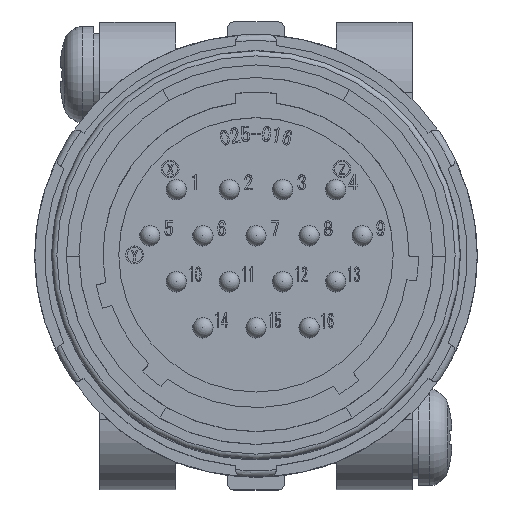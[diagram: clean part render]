
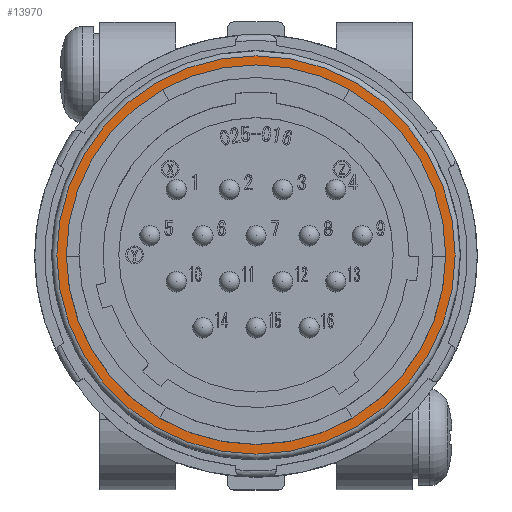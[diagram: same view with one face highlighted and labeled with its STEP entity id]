
A CAD part, top view. The second image highlights one B-rep face of the part: STEP entity #13970.
In plain terms, the highlighted planar face has unit normal (0, 0, 1).
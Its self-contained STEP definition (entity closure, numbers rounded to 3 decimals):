
#2315 = FACE_OUTER_BOUND ( 'NONE', #22910, .T. ) ;
#6933 = FACE_BOUND ( 'NONE', #57547, .T. ) ;
#8562 = AXIS2_PLACEMENT_3D ( 'NONE', #46406, #51218, #51427 ) ;
#12644 = ORIENTED_EDGE ( 'NONE', *, *, #45888, .T. ) ;
#13970 = ADVANCED_FACE ( 'NONE', ( #6933, #2315 ), #60161, .F. ) ;
#19432 = DIRECTION ( 'NONE',  ( -1., 0., 0. ) ) ;
#20312 = VERTEX_POINT ( 'NONE', #37257 ) ;
#22910 = EDGE_LOOP ( 'NONE', ( #39780 ) ) ;
#26569 = DIRECTION ( 'NONE',  ( -1., 0., 0. ) ) ;
#26982 = CARTESIAN_POINT ( 'NONE',  ( 0., 14.15, -19.2 ) ) ;
#33881 = AXIS2_PLACEMENT_3D ( 'NONE', #57882, #53803, #19432 ) ;
#37257 = CARTESIAN_POINT ( 'NONE',  ( 15.75, 0., -19.2 ) ) ;
#39780 = ORIENTED_EDGE ( 'NONE', *, *, #56029, .T. ) ;
#40095 = CIRCLE ( 'NONE', #8562, 15.75 ) ;
#40737 = VERTEX_POINT ( 'NONE', #41504 ) ;
#41504 = CARTESIAN_POINT ( 'NONE',  ( -13.98, 0., -19.2 ) ) ;
#42837 = CIRCLE ( 'NONE', #33881, 13.98 ) ;
#45888 = EDGE_CURVE ( 'NONE', #40737, #40737, #42837, .T. ) ;
#46406 = CARTESIAN_POINT ( 'NONE',  ( 0., 0., -19.2 ) ) ;
#51218 = DIRECTION ( 'NONE',  ( 0., 0., 1. ) ) ;
#51427 = DIRECTION ( 'NONE',  ( 1., 0., 0. ) ) ;
#53803 = DIRECTION ( 'NONE',  ( 0., 0., -1. ) ) ;
#56029 = EDGE_CURVE ( 'NONE', #20312, #20312, #40095, .T. ) ;
#56095 = DIRECTION ( 'NONE',  ( 0., 0., -1. ) ) ;
#57547 = EDGE_LOOP ( 'NONE', ( #12644 ) ) ;
#57576 = AXIS2_PLACEMENT_3D ( 'NONE', #26982, #56095, #26569 ) ;
#57882 = CARTESIAN_POINT ( 'NONE',  ( 0., 0., -19.2 ) ) ;
#60161 = PLANE ( 'NONE',  #57576 ) ;
